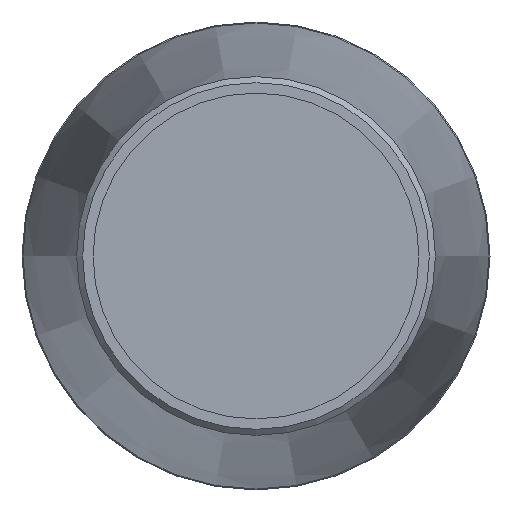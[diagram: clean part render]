
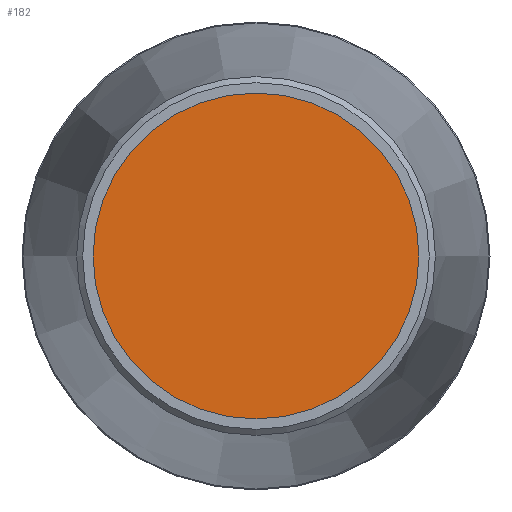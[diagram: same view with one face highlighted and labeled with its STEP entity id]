
A CAD part, left-side view. The second image highlights one B-rep face of the part: STEP entity #182.
In plain terms, the highlighted planar face has unit normal (-1, 0, 0).
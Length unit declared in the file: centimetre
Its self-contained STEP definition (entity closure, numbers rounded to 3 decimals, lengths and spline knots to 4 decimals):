
#20=PLANE('',#211);
#45=FACE_OUTER_BOUND('',#70,.T.);
#70=EDGE_LOOP('',(#140));
#88=CIRCLE('',#210,2.925);
#102=VERTEX_POINT('',#311);
#116=EDGE_CURVE('',#102,#102,#88,.T.);
#140=ORIENTED_EDGE('',*,*,#116,.T.);
#182=ADVANCED_FACE('',(#45),#20,.T.);
#210=AXIS2_PLACEMENT_3D('',#312,#263,#264);
#211=AXIS2_PLACEMENT_3D('',#313,#265,#266);
#263=DIRECTION('center_axis',(-1.,0.,0.));
#264=DIRECTION('ref_axis',(0.,0.,1.));
#265=DIRECTION('center_axis',(-1.,0.,0.));
#266=DIRECTION('ref_axis',(0.,0.,1.));
#311=CARTESIAN_POINT('',(-17.2,-2.925,0.));
#312=CARTESIAN_POINT('Origin',(-17.2,0.,0.));
#313=CARTESIAN_POINT('Origin',(-17.2,0.,0.));
